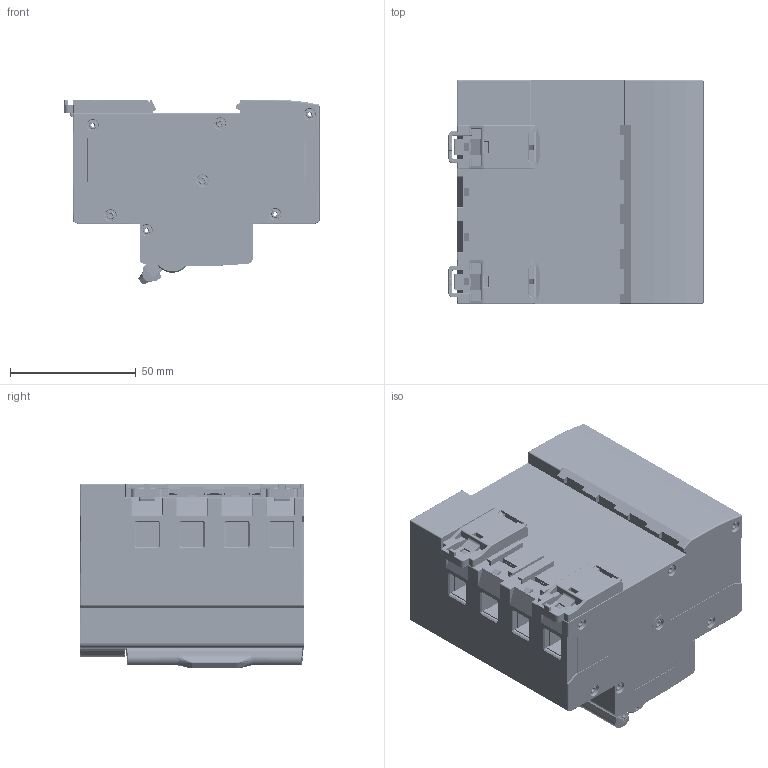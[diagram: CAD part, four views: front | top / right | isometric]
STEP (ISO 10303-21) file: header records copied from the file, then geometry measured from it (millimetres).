
FILE_DESCRIPTION((''),'2;1');
FILE_NAME('WKZJ_ASM','2022-02-26T14:34:50',('tubing'),(''),'CREO PARAMETRIC BY PTC INC, 2020044','CREO PARAMETRIC BY PTC INC, 2020044','');
FILE_SCHEMA(('CONFIG_CONTROL_DESIGN','SHAPE_APPEARANCE_LAYERS_GROUPS'));
Products named in the file (48): 8ZTD-022-787_SOLID_1; 8ZTD-051-035_SOLID_1-17050; 8ZTD-051-035_SOLID_1-42806; 8ZTD-051-035_SOLID_1-68562; 8ZTD-315-1637; 8-022-789; 8-315-1638; CMYH8253B0101133_1_002_0-123835; CMYH8253B0101133_1_002_0-126397; CMYH8253B0101133_1_002_0-128957; CMYH8253B0101133_1_002_0-131517; NB1-LIANDONGJIAN-4P_SOLID_1; CMCJCB1-137884; CMYHJXB1_26-138693; CMYH8ZTD-574-198_1_3_26-139766; CMYH8ZTD-900-057_2_3_26-141479; CMCJCB1-143069; CMCJCB1-143878; CMCJCB1-144687; CMYHJXB1_26-145496; CMYHJXB1_26-146569; CMYHJXB1_26-147642; CMYH8ZTD-574-198_1_3_26-148715; CMYH8ZTD-900-057_2_3_26-150428; CMYH8ZTD-574-198_1_3_26-152018; CMYH8ZTD-900-057_2_3_26-153731; CMYH8ZTD-574-198_1_3_26-155321; CMYH8ZTD-900-057_2_3_26-157034; CMYH8ZTD-574-198_1_3_26-158624; CMYH8ZTD-900-057_2_3_26-160337; CMYH8ZTD-574-198_1_3_26-161927; CMYH8ZTD-900-057_2_3_26-163640; CMYH8ZTD-574-198_1_3_26-165230; CMYH8ZTD-900-057_2_3_26-166943; CMYH8ZTD-574-198_1_3_26-168533; CMYH8ZTD-900-057_2_3_26-170246; MAODING-5P-171836; MAODING-5P-172281; MAODING-5P-172726; MAODING-5P-173171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
Assembly tree (47 placements, depth 2):
  WKZJ_ASM
    8ZTD-022-787_SOLID_1
    8ZTD-051-035_SOLID_1-17050
    8ZTD-051-035_SOLID_1-42806
    8ZTD-051-035_SOLID_1-68562
    8ZTD-315-1637
    8-022-789
    8-315-1638
    CMYH8253B0101133_1_002_0-123835
    CMYH8253B0101133_1_002_0-126397
    CMYH8253B0101133_1_002_0-128957
    CMYH8253B0101133_1_002_0-131517
    NB1-LIANDONGJIAN-4P_SOLID_1
    CMCJCB1-137884
    CMYHJXB1_26-138693
    CMYH8ZTD-574-198_1_3_26-139766
    CMYH8ZTD-900-057_2_3_26-141479
    CMCJCB1-143069
    CMCJCB1-143878
    CMCJCB1-144687
    CMYHJXB1_26-145496
    CMYHJXB1_26-146569
    CMYHJXB1_26-147642
    CMYH8ZTD-574-198_1_3_26-148715
    CMYH8ZTD-900-057_2_3_26-150428
    CMYH8ZTD-574-198_1_3_26-152018
    CMYH8ZTD-900-057_2_3_26-153731
    CMYH8ZTD-574-198_1_3_26-155321
    CMYH8ZTD-900-057_2_3_26-157034
    CMYH8ZTD-574-198_1_3_26-158624
    CMYH8ZTD-900-057_2_3_26-160337
    CMYH8ZTD-574-198_1_3_26-161927
    CMYH8ZTD-900-057_2_3_26-163640
    CMYH8ZTD-574-198_1_3_26-165230
    CMYH8ZTD-900-057_2_3_26-166943
    CMYH8ZTD-574-198_1_3_26-168533
    CMYH8ZTD-900-057_2_3_26-170246
    MAODING-5P-171836
    MAODING-5P-172281
    MAODING-5P-172726
    MAODING-5P-173171
    MAODING-4P-173616
    MAODING-4P-174061
    MAODING-4P-174506
    8ZTD-108-066-174951
    8ZTD271359-180008
    8ZTD-108-066-182490
    8ZTD271359-187547
Bounding box: 101.3 x 89.1 x 73.47 mm (x, y, z)
Volume: 174085.1 mm3; surface area: 222042.7 mm2
Topology: 47 solids, 54 shells, 9330 faces, 26739 edges, 17804 vertices
Faces by surface type: plane 6383, cylinder 2140, torus 432, cone 260, bspline 60, sphere 55
Entity records: 332507 total; most frequent: CARTESIAN_POINT 61042, ORIENTED_EDGE 53400, DIRECTION 51717, EDGE_CURVE 26700, VECTOR 18461, LINE 18461, VERTEX_POINT 17804, AXIS2_PLACEMENT_3D 16628
